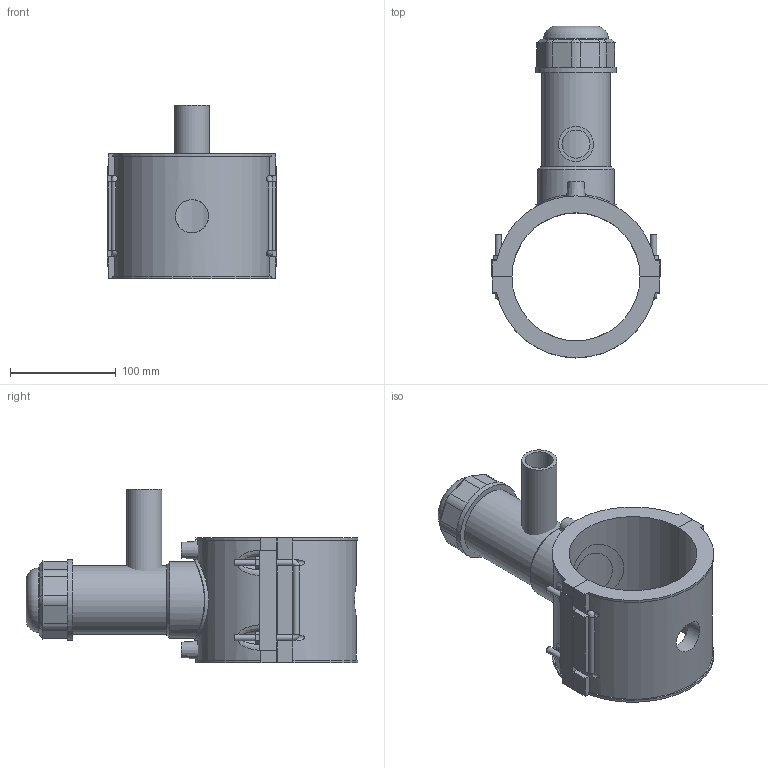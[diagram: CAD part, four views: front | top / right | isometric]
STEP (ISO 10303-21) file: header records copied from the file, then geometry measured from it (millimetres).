
FILE_DESCRIPTION(/* description */ ('PLASSON TAPPING SADDLE 4''''DIPS x 1''''IPS'),/* implementation_level */ '2;1');
FILE_NAME(/* name */ 'C:\Dropbox\KIMPROJECTS-Inventor 2019\99-16-3568-Processing Inch\ASTM ElectroFusion 2021\5963DBP_5963BUP\5963DBP3040010.ipt.stp',/* time_stamp */ '2021-08-30T09:58:19+03:00',/* author */ ('KIM'),/* organization */ (''),/* preprocessor_version */ 'ST-DEVELOPER v17.2',/* originating_system */ 'Autodesk Inventor 2019',/* authorisation */ '');
FILE_SCHEMA (('AUTOMOTIVE_DESIGN { 1 0 10303 214 3 1 1 }'));
Length unit declared in the file: inch
Products named in the file (1): 5963DBP3040010
Bounding box: 161 x 314.4 x 163.96 mm (x, y, z)
Volume: 1164436.3 mm3; surface area: 227152 mm2
Topology: 3 solids, 3 shells, 194 faces, 502 edges, 328 vertices
Faces by surface type: plane 118, cylinder 52, cone 15, bspline 8, torus 1
Full cylindrical faces by diameter (mm): 4 x2, 6 x8, 10 x2, 26.64 x1, 31.36 x1, 33.3 x1, 53.493 x1, 61.135 x1, 64.956 x1, 72.598 x1, 76.419 x2
Entity records: 7083 total; most frequent: CARTESIAN_POINT 2282, ORIENTED_EDGE 1004, DIRECTION 953, EDGE_CURVE 502, VERTEX_POINT 328, AXIS2_PLACEMENT_3D 322, LINE 309, VECTOR 309
